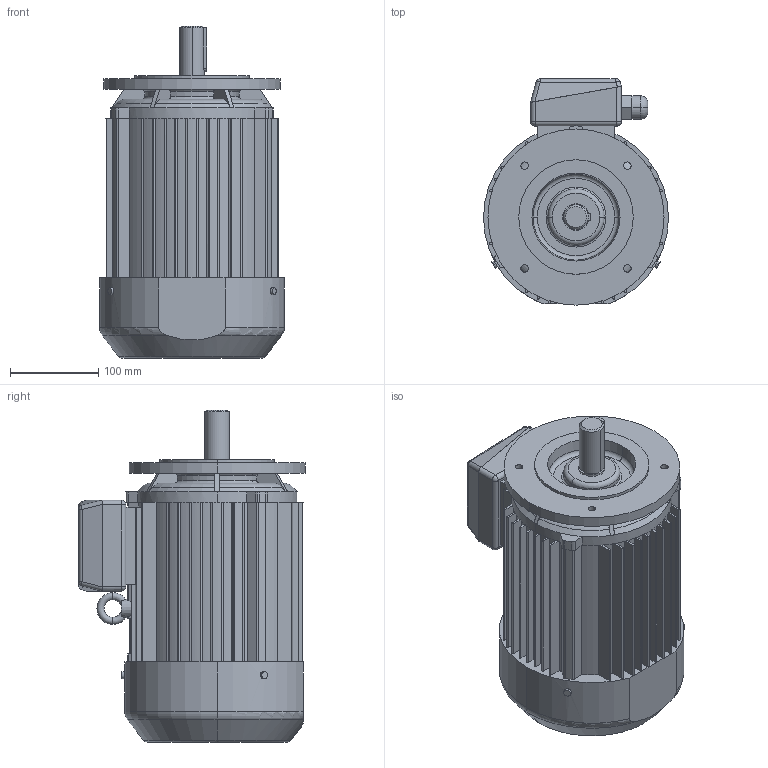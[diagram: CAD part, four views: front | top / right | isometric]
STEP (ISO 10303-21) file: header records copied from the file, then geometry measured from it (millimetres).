
FILE_DESCRIPTION (( 'STEP AP203' ), '1' );
FILE_NAME ('3SIEK100L2,6-B14-C1.STEP', '2016-02-08T12:13:53', ( 'Indukta' ), ( 'Celma Indukta S.A.' ), 'SwSTEP 2.0', 'SolidWorks 2003064', '' );
FILE_SCHEMA (( 'CONFIG_CONTROL_DESIGN' ));
Length unit declared in the file: millimetre
Products named in the file (1): 3SIEK100L2,6-B14-C1
Bounding box: 210 x 257 x 377 mm (x, y, z)
Volume: 9464851.1 mm3; surface area: 477517.2 mm2
Topology: 1 solids, 1 shells, 625 faces, 1672 edges, 1061 vertices
Faces by surface type: plane 315, cylinder 161, bspline 78, torus 43, cone 20, sphere 8
Entity records: 26310 total; most frequent: CARTESIAN_POINT 11029, ORIENTED_EDGE 3328, DIRECTION 2978, EDGE_CURVE 1664, VERTEX_POINT 1061, AXIS2_PLACEMENT_3D 1036, LINE 906, VECTOR 906
